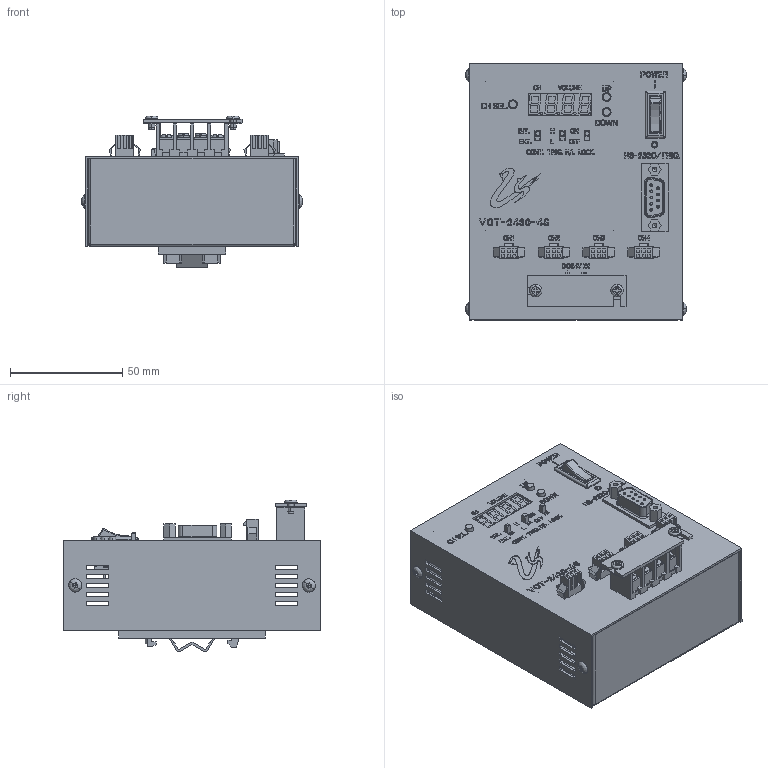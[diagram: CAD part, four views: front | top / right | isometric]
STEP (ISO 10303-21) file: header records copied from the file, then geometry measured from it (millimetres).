
FILE_DESCRIPTION(('STEP AP214'),'1');
FILE_NAME('VCT-2430-4S_DRAWING_3D.step','2023-11-27T11:25:25',(' '),(' '),'Spatial InterOp 3D',' ',' ');
FILE_SCHEMA(('AUTOMOTIVE_DESIGN { 1 0 10303 214 1 1 1 1 }'));
Length unit declared in the file: millimetre
Products named in the file (21): PANEL; SLIDE SWITCH_1_1; CABLE1; Part1; TACTILE SWITCH; MXB6130_2; ML-40-3C-2P; LED DISPLAY_1_1; MXB6154; MXB6950; ML-40-3I1; EXT. HARNESS_HLP218DWH05_1_1; COVER_1_1; SPACER M2.6x7.8_DSB-7962CE_1_1; Part001_1; DIN PLATE_DRT-1_2; MXB6188_2; PLATE 2mm_1; Hex Nut_1; CW-T12KKS1
Assembly tree (43 placements, depth 2):
  (unnamed)
    PANEL
    SLIDE SWITCH_1_1  x3
    CABLE1  x4
    Part1
    TACTILE SWITCH  x3
    MXB6130_2  x4
    ML-40-3C-2P
    LED DISPLAY_1_1
    MXB6154  x2
    MXB6950  x2
    ML-40-3I1  x2
    EXT. HARNESS_HLP218DWH05_1_1
    COVER_1_1
    SPACER M2.6x7.8_DSB-7962CE_1_1  x2
    Part001_1  x4
    DIN PLATE_DRT-1_2
    MXB6188_2  x4
    PLATE 2mm_1
    Hex Nut_1  x4
    CW-T12KKS1
Bounding box: 98 x 114 x 67.57 mm (x, y, z)
Volume: 65600.5 mm3; surface area: 111969.6 mm2
Topology: 79 solids, 79 shells, 4548 faces, 12401 edges, 8385 vertices
Faces by surface type: plane 3333, cylinder 604, bspline 467, torus 86, sphere 32, cone 26
Entity records: 155754 total; most frequent: CARTESIAN_POINT 37114, ORIENTED_EDGE 19680, DIRECTION 16231, EDGE_CURVE 9840, LINE 7603, VECTOR 7603, VERTEX_POINT 6764, AXIS2_PLACEMENT_3D 4314
